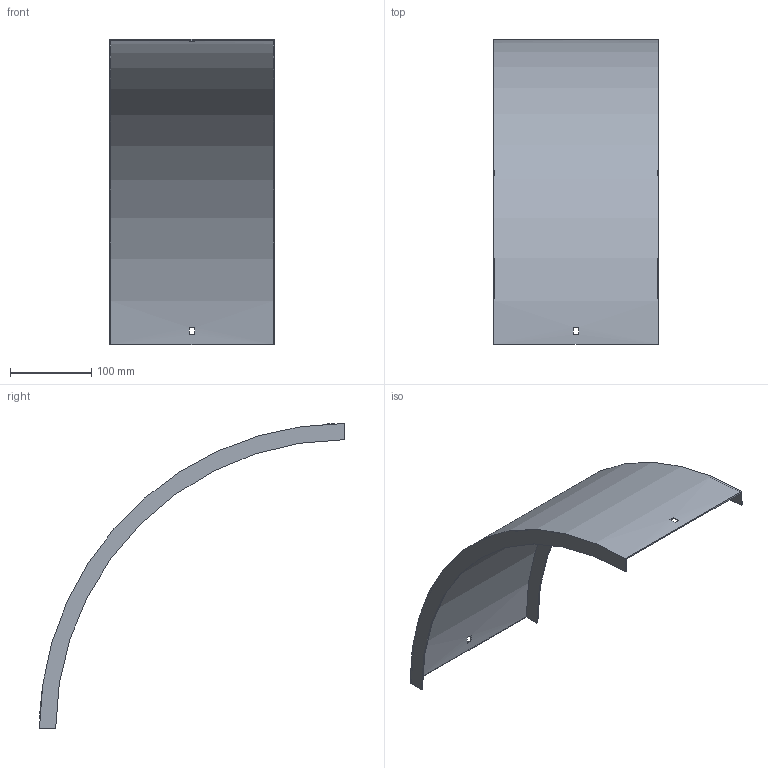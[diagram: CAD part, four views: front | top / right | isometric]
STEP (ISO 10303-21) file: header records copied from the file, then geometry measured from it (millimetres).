
FILE_DESCRIPTION (( 'STEP AP214' ), '1' );
FILE_NAME ('B2_33N3C200.step', '2025-02-21T10:46:25', ( '' ), ( '' ), 'SwSTEP 2.0', 'SolidWorks 2023', '' );
FILE_SCHEMA (( 'AUTOMOTIVE_DESIGN' ));
Length unit declared in the file: millimetre
Products named in the file (1): B2_33N3C200
Bounding box: 203 x 376.5 x 376.5 mm (x, y, z)
Volume: 211434.2 mm3; surface area: 284408.8 mm2
Topology: 1 solids, 1 shells, 18 faces, 48 edges, 32 vertices
Faces by surface type: plane 14, cylinder 4
Entity records: 599 total; most frequent: DIRECTION 102, CARTESIAN_POINT 99, ORIENTED_EDGE 96, EDGE_CURVE 48, AXIS2_PLACEMENT_3D 35, LINE 32, VECTOR 32, VERTEX_POINT 32
